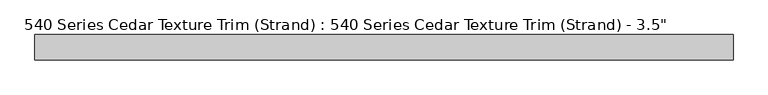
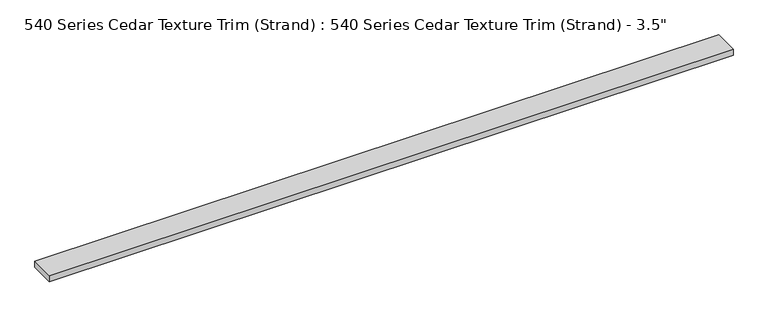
"""IFC4 building model written with IfcOpenShell, lengths in millimetres: proxy geometry."""

from ifc_helpers import new_model, si_unit, origin, origin_with_axes, place, context, project, spatial, polyline, outline, extrude, source, transform, mapped, element, save


def proxy_e4f6d6d5(model_context):
    return source(origin(), model_context, "Body", "SweptSolid", [
        extrude(outline(polyline([(2438.4, 0.0), (0.0, 0.0), (0.0, 88.9), (2438.4, 88.9), (2438.4, 0.0)])), origin_with_axes(), (0.0, 0.0, 1.0), 23.1179687),
    ])


if __name__ == "__main__":
    model = new_model("IFC4")
    model_context = context("Model", 3, world=origin())
    ifc_project = project(units=[si_unit("LENGTHUNIT", "METRE", prefix="MILLI")], contexts=[model_context])
    site = spatial("IfcSite", under=ifc_project)
    building = spatial("IfcBuilding", under=site)
    placement = place(None, origin())
    proxy_shape = proxy_e4f6d6d5(model_context)
    element("IfcBuildingElementProxy", 1, Name="540 Series Cedar Texture Trim (Strand) : 540 Series Cedar Texture Trim (Strand) - 3.5\"", ObjectType="540 Series Cedar Texture Trim (Strand) : 540 Series Cedar Texture Trim (Strand) - 3.5\"", at=placement, inside=building, context=model_context, shape_type="MappedRepresentation", body=[
        mapped(proxy_shape, transform((0.0, 0.0, 0.0), x_axis=(1.0, 0.0, 0.0), y_axis=(0.0, 1.0, 0.0), z_axis=(0.0, 0.0, 1.0))),
    ])
    save(model, "model.ifc")
